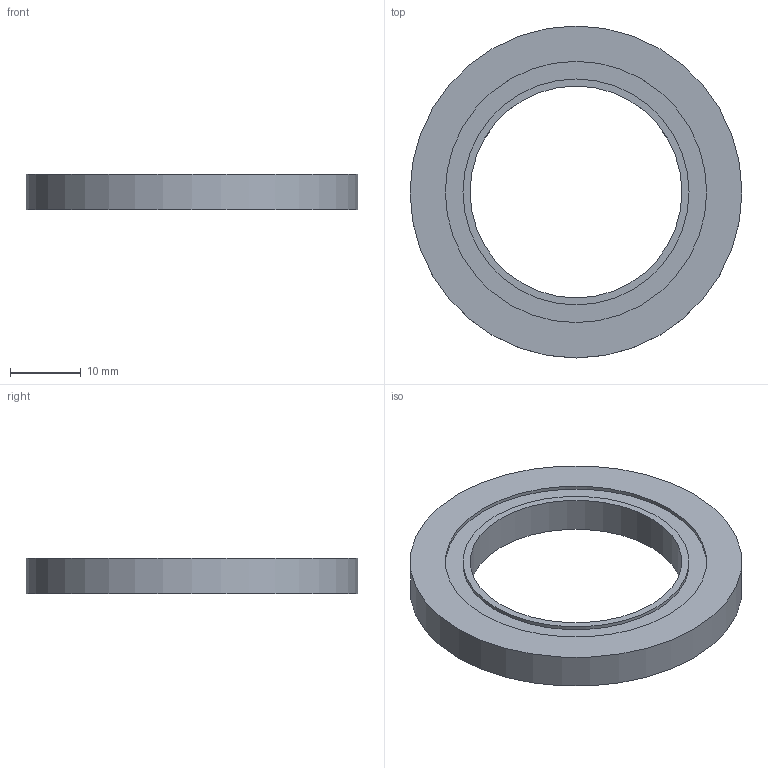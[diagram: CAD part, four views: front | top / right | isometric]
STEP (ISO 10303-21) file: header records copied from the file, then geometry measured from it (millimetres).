
FILE_DESCRIPTION(/* description */ (''),/* implementation_level */ '2;1');
FILE_NAME(/* name */ 'W:\WEBOVKY\Knecht\VD\VD30\VD30.stp',/* time_stamp */ '2021-03-08T12:28:34+01:00',/* author */ ('mkorenek'),/* organization */ (''),/* preprocessor_version */ 'ST-DEVELOPER v18.1',/* originating_system */ 'Autodesk Inventor 2021',/* authorisation */ '');
FILE_SCHEMA (('AUTOMOTIVE_DESIGN { 1 0 10303 214 3 1 1 }'));
Length unit declared in the file: millimetre
Products named in the file (1): VD16
Bounding box: 47 x 47 x 5 mm (x, y, z)
Volume: 5004.9 mm3; surface area: 3374.1 mm2
Topology: 1 solids, 1 shells, 8 faces, 16 edges, 12 vertices
Faces by surface type: plane 4, cylinder 4
Full cylindrical faces by diameter (mm): 30 x1, 32 x1, 37 x1, 47 x1
Entity records: 269 total; most frequent: DIRECTION 46, CARTESIAN_POINT 37, ORIENTED_EDGE 32, AXIS2_PLACEMENT_3D 21, EDGE_CURVE 16, EDGE_LOOP 12, CIRCLE 12, VERTEX_POINT 12
